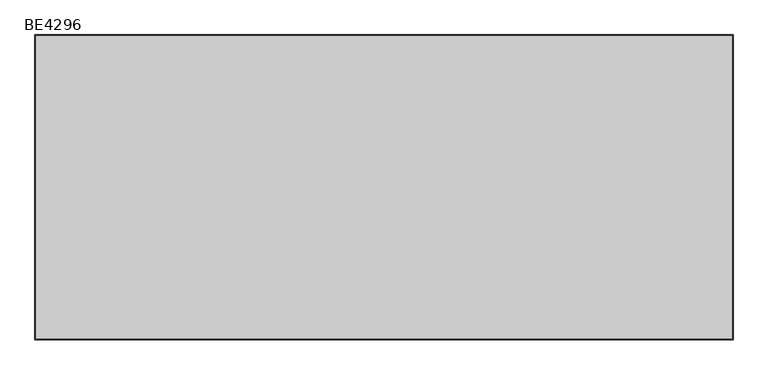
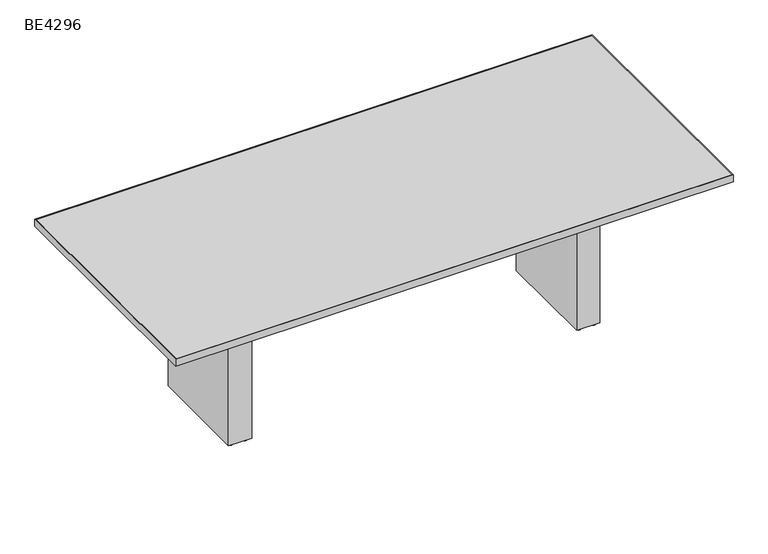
"""IFC4 building model written with IfcOpenShell, lengths in millimetres: furniture geometry, ERG-Beta-Conference_Table-Rectangle : BE4296."""

from ifc_helpers import new_model, si_unit, point, frame, frame_2d, origin, origin_with_axes, place, context, project, spatial, polyline, circle_curve, trimmed, segment, composite_curve, outline, extrude, source, transform, mapped, element, save


def be4296_17755770(model_context):
    return source(origin(), model_context, "Body", "SweptSolid", [
        extrude(outline(composite_curve([segment(trimmed(circle_curve(frame_2d((1273.175, 263.276527)), 9.525), [point((1263.65, 263.276527))], [point((1282.7, 263.276527))], False, "CARTESIAN"), True, "CONTINUOUS"), segment(trimmed(circle_curve(frame_2d((1273.175, 263.276527)), 9.525), [point((1282.7, 263.276527))], [point((1263.65, 263.276527))], False, "CARTESIAN"), True, "CONTINUOUS")], self_intersect=False)), origin_with_axes(), (0.0, 0.0, 1.0), 9.525),
        extrude(outline(composite_curve([segment(trimmed(circle_curve(frame_2d((1336.675, 263.276527)), 9.525), [point((1327.15, 263.276527))], [point((1346.2, 263.276527))], False, "CARTESIAN"), True, "CONTINUOUS"), segment(trimmed(circle_curve(frame_2d((1336.675, 263.276527)), 9.525), [point((1346.2, 263.276527))], [point((1327.15, 263.276527))], False, "CARTESIAN"), True, "CONTINUOUS")], self_intersect=False)), origin_with_axes(), (0.0, 0.0, 1.0), 9.525),
        extrude(outline(composite_curve([segment(trimmed(circle_curve(frame_2d((1273.175, -155.823473)), 9.525), [point((1263.65, -155.823473))], [point((1282.7, -155.823473))], False, "CARTESIAN"), True, "CONTINUOUS"), segment(trimmed(circle_curve(frame_2d((1273.175, -155.823473)), 9.525), [point((1282.7, -155.823473))], [point((1263.65, -155.823473))], False, "CARTESIAN"), True, "CONTINUOUS")], self_intersect=False)), origin_with_axes(), (0.0, 0.0, 1.0), 9.525),
        extrude(outline(composite_curve([segment(trimmed(circle_curve(frame_2d((1336.675, -155.823473)), 9.525), [point((1327.15, -155.823473))], [point((1346.2, -155.823473))], False, "CARTESIAN"), True, "CONTINUOUS"), segment(trimmed(circle_curve(frame_2d((1336.675, -155.823473)), 9.525), [point((1346.2, -155.823473))], [point((1327.15, -155.823473))], False, "CARTESIAN"), True, "CONTINUOUS")], self_intersect=False)), origin_with_axes(), (0.0, 0.0, 1.0), 9.525),
        extrude(outline(polyline([(1355.725, 282.326527), (1355.725, -174.873473), (1254.125, -174.873473), (1254.125, 282.326527), (1355.725, 282.326527)])), frame((0.0, 0.0, 9.525), z_axis=(0.0, 0.0, 1.0), x_axis=(1.0, 0.0, 0.0)), (0.0, 0.0, 1.0), 695.3249758),
        extrude(outline(composite_curve([segment(trimmed(circle_curve(frame_2d((-250.825, 263.276527)), 9.525), [point((-260.35, 263.276527))], [point((-241.3, 263.276527))], False, "CARTESIAN"), True, "CONTINUOUS"), segment(trimmed(circle_curve(frame_2d((-250.825, 263.276527)), 9.525), [point((-241.3, 263.276527))], [point((-260.35, 263.276527))], False, "CARTESIAN"), True, "CONTINUOUS")], self_intersect=False)), origin_with_axes(), (0.0, 0.0, 1.0), 9.525),
        extrude(outline(composite_curve([segment(trimmed(circle_curve(frame_2d((-187.325, 263.276527)), 9.525), [point((-196.85, 263.276527))], [point((-177.8, 263.276527))], False, "CARTESIAN"), True, "CONTINUOUS"), segment(trimmed(circle_curve(frame_2d((-187.325, 263.276527)), 9.525), [point((-177.8, 263.276527))], [point((-196.85, 263.276527))], False, "CARTESIAN"), True, "CONTINUOUS")], self_intersect=False)), origin_with_axes(), (0.0, 0.0, 1.0), 9.525),
        extrude(outline(composite_curve([segment(trimmed(circle_curve(frame_2d((-250.825, -155.823473)), 9.525), [point((-260.35, -155.823473))], [point((-241.3, -155.823473))], False, "CARTESIAN"), True, "CONTINUOUS"), segment(trimmed(circle_curve(frame_2d((-250.825, -155.823473)), 9.525), [point((-241.3, -155.823473))], [point((-260.35, -155.823473))], False, "CARTESIAN"), True, "CONTINUOUS")], self_intersect=False)), origin_with_axes(), (0.0, 0.0, 1.0), 9.525),
        extrude(outline(composite_curve([segment(trimmed(circle_curve(frame_2d((-187.325, -155.823473)), 9.525), [point((-196.85, -155.823473))], [point((-177.8, -155.823473))], False, "CARTESIAN"), True, "CONTINUOUS"), segment(trimmed(circle_curve(frame_2d((-187.325, -155.823473)), 9.525), [point((-177.8, -155.823473))], [point((-196.85, -155.823473))], False, "CARTESIAN"), True, "CONTINUOUS")], self_intersect=False)), origin_with_axes(), (0.0, 0.0, 1.0), 9.525),
        extrude(outline(polyline([(-168.275, 282.326527), (-168.275, -174.873473), (-269.875, -174.873473), (-269.875, 282.326527), (-168.275, 282.326527)])), frame((0.0, 0.0, 9.525), z_axis=(0.0, 0.0, 1.0), x_axis=(1.0, 0.0, 0.0)), (0.0, 0.0, 1.0), 695.3249758),
        extrude(outline(polyline([(1762.125, -479.673473), (-676.275, -479.673473), (-676.275, 587.126527), (1762.125, 587.126527), (1762.125, -479.673473)]), holes=[polyline([(1758.95, 583.951527), (-673.1, 583.951527), (-673.1, -476.498473), (1758.95, -476.498473), (1758.95, 583.951527)])]), frame((0.0, 0.0, 704.85), z_axis=(0.0, 0.0, 1.0), x_axis=(1.0, 0.0, 0.0)), (0.0, 0.0, 1.0), 31.75),
        extrude(outline(polyline([(1758.95, -476.498473), (-673.1, -476.498473), (-673.1, 583.951527), (1758.95, 583.951527), (1758.95, -476.498473)])), frame((0.0, 0.0, 704.85), z_axis=(0.0, 0.0, 1.0), x_axis=(1.0, 0.0, 0.0)), (0.0, 0.0, 1.0), 31.75),
    ])


if __name__ == "__main__":
    model = new_model("IFC4")
    model_context = context("Model", 3, world=origin())
    ifc_project = project(units=[si_unit("LENGTHUNIT", "METRE", prefix="MILLI")], contexts=[model_context])
    site = spatial("IfcSite", under=ifc_project)
    building = spatial("IfcBuilding", under=site)
    placement = place(None, origin())
    be4296_shape = be4296_17755770(model_context)
    element("IfcFurniture", 1, ObjectType="ERG-Beta-Conference_Table-Rectangle : BE4296", at=placement, inside=building, context=model_context, shape_type="MappedRepresentation", body=[
        mapped(be4296_shape, transform((0.0, 0.0, 0.0), x_axis=(1.0, 0.0, 0.0), y_axis=(0.0, 1.0, 0.0), z_axis=(0.0, 0.0, 1.0))),
    ])
    save(model, "model.ifc")
